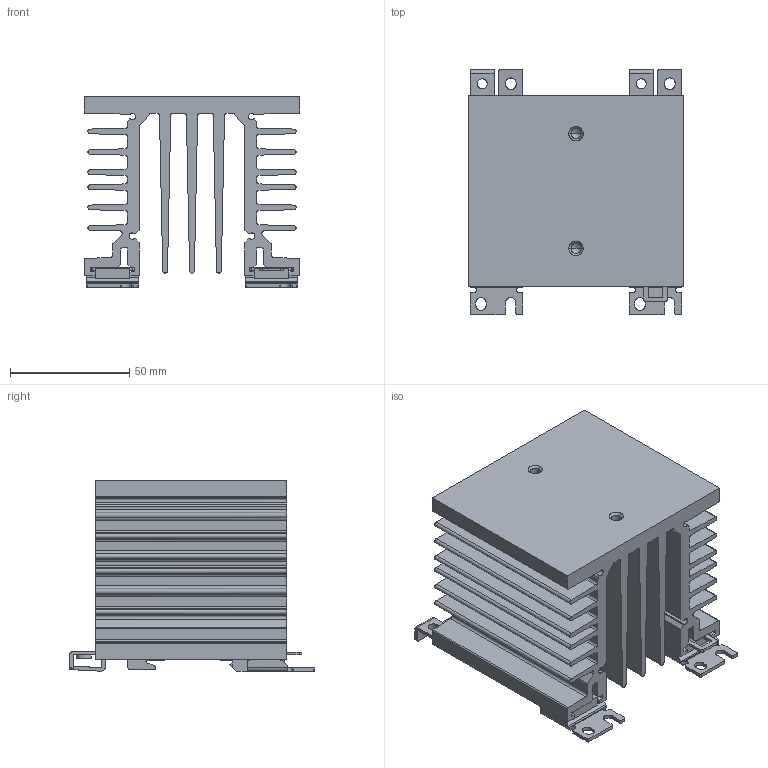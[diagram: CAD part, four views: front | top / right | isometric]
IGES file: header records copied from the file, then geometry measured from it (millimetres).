
Global section: file name: V:\RE DOCS 110324\Projects\0-Catalogue 3D-2D\Heatsink\3D\HeatS CGM0348  RHS90AX-RHS90A_ASM.igs; native system: AutoCAD-17.2s (LMS Tech) (Microsoft Windows NT Version 5.2 (x64)); preprocessor: Autodesk IGES Translator Mechanical Desktop 2009 (Feb 21 2008) from Autodesk, Inc.; date: 20140401.105342; units: millimetre
Bounding box: 90 x 102.55 x 79.9 mm (x, y, z)
Surface area: 122040.3 mm2 (no closed solid volume)
Topology: 0 solids, 0 shells, 452 faces, 2950 edges, 2946 vertices
Faces by surface type: bspline 452
